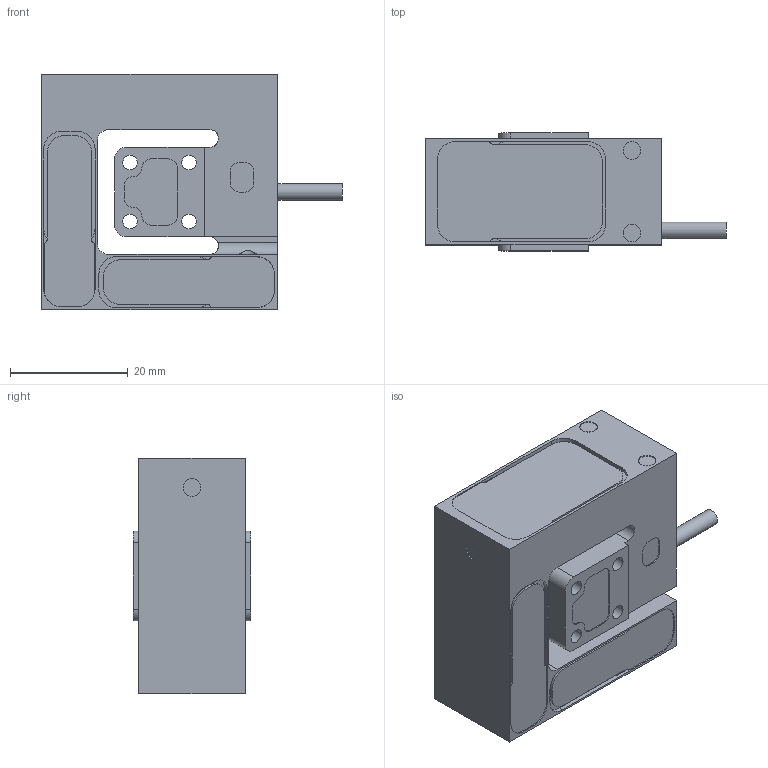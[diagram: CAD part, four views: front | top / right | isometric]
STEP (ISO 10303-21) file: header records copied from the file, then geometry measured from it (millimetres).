
FILE_DESCRIPTION(/* description */ ('Alibre Inc.'),/* implementation_level */ '2;1');
FILE_NAME(/* name */ 'export0',/* time_stamp */ '2016-04-27T13:51:52+02:00',/* author */ (''),/* organization */ (''),/* preprocessor_version */ 'ST-DEVELOPER v14',/* originating_system */ 'Alibre',/* authorisation */ '');
FILE_SCHEMA (('CONFIG_CONTROL_DESIGN'));
Length unit declared in the file: centimetre
Products named in the file (6): ID_1; ID_2; ID_3
Bounding box: 51 x 20 x 40 mm (x, y, z)
Volume: 22284.3 mm3; surface area: 13428.9 mm2
Topology: 7 solids, 7 shells, 369 faces, 992 edges, 661 vertices
Faces by surface type: plane 210, cylinder 157, cone 2
Full cylindrical faces by diameter (mm): 2 x1, 2.459 x8, 2.8 x1, 3 x17
Entity records: 10690 total; most frequent: CARTESIAN_POINT 2326, ORIENTED_EDGE 1636, DIRECTION 1442, EDGE_CURVE 818, VERTEX_POINT 558, AXIS2_PLACEMENT_3D 548, VECTOR 513, LINE 513
